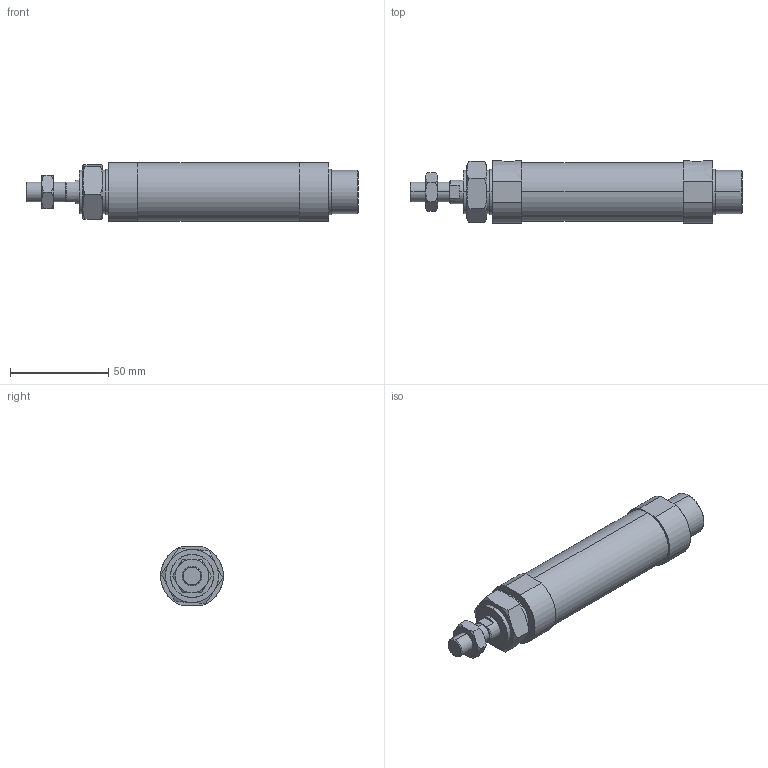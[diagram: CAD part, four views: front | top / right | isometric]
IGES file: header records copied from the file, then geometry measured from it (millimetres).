
Start section: SolidWorks IGES file using analytic representation for surfaces
Global section: file name: C:\Users\Toshiba\Desktop\J#2-25-50-N.IGS; native system: SolidWorks 2014; preprocessor: SolidWorks 2014; author: Toshiba; date: 160308.151150; units: millimetre
Bounding box: 169 x 32 x 30 mm (x, y, z)
Surface area: 19654.7 mm2 (no closed solid volume)
Topology: 0 solids, 0 shells, 97 faces, 1744 edges, 1740 vertices
Faces by surface type: bspline 61, revolution 36
